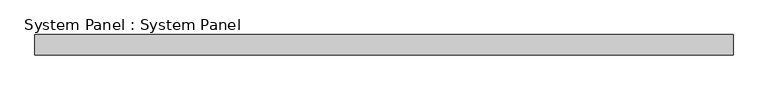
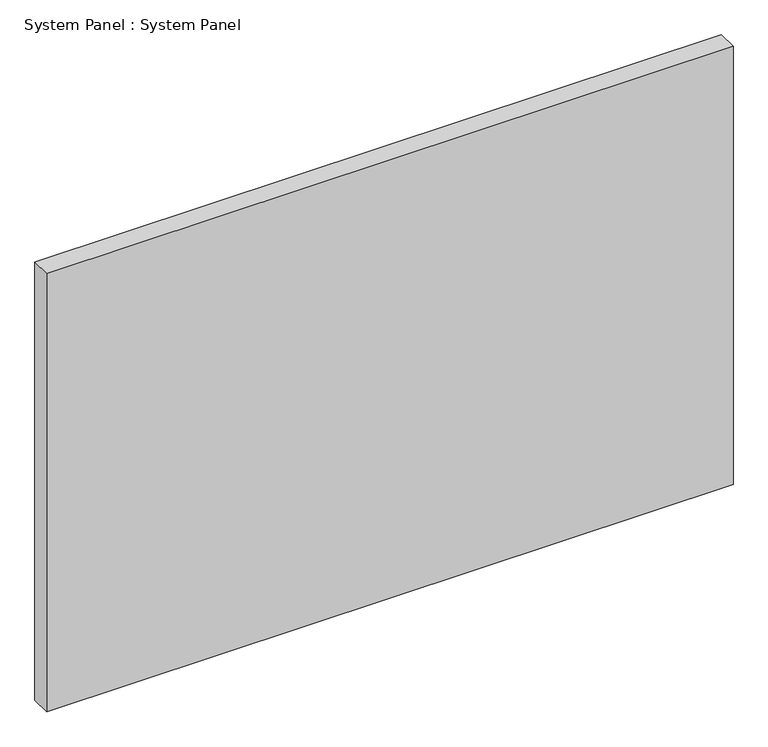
"""IFC4 building model written with IfcOpenShell, lengths in millimetres: plate geometry, System Panel : System Panel."""

from ifc_helpers import new_model, si_unit, origin, origin_with_axes, place, context, project, spatial, polyline, outline, extrude, source, transform, mapped, element, save


def system_panel_system_panel_86e66b7d(model_context):
    return source(origin(), model_context, "Body", "SweptSolid", [
        extrude(outline(polyline([(1735.6576526, -50.8), (-1735.6576526, -50.8), (-1735.6576526, 50.8), (1735.6576526, 50.8), (1735.6576526, -50.8)])), origin_with_axes(), (0.0, 0.0, 1.0), 2343.15),
    ])


if __name__ == "__main__":
    model = new_model("IFC4")
    model_context = context("Model", 3, world=origin())
    ifc_project = project(units=[si_unit("LENGTHUNIT", "METRE", prefix="MILLI")], contexts=[model_context])
    site = spatial("IfcSite", under=ifc_project)
    building = spatial("IfcBuilding", under=site)
    placement = place(None, origin())
    system_panel_system_panel_shape = system_panel_system_panel_86e66b7d(model_context)
    element("IfcPlate", 1, ObjectType="System Panel : System Panel", at=placement, inside=building, context=model_context, shape_type="MappedRepresentation", body=[
        mapped(system_panel_system_panel_shape, transform((0.0, 0.0, 0.0), x_axis=(1.0, 0.0, 0.0), y_axis=(0.0, 1.0, 0.0), z_axis=(0.0, 0.0, 1.0))),
    ])
    save(model, "model.ifc")
